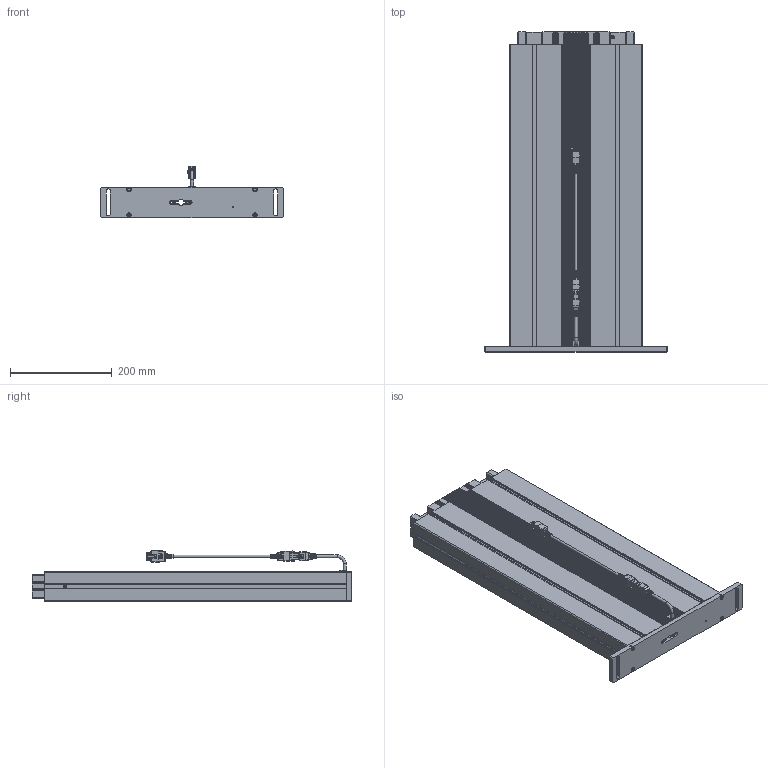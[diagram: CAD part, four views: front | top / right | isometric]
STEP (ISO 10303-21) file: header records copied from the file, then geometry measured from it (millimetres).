
FILE_DESCRIPTION(/* description */ ('Unknown'),/* implementation_level */ '2;1');
FILE_NAME(/* name */ '901.01104_01-Eingefahren',/* time_stamp */ '2022-06-27T11:06:17+02:00',/* author */ ('Unknown'),/* organization */ ('Unknown'),/* preprocessor_version */ 'ST-DEVELOPER v18.1',/* originating_system */ 'Solid Edge',/* authorisation */ 'Unknown');
FILE_SCHEMA (('AUTOMOTIVE_DESIGN {1 0 10303 214 3 1 1}'));
Products named in the file (12): 901.01104; 126.00137; 119.00302; 119.00401; 142.00166; 124.00201_oa_0; 142.00241; 110.00113_oa_1; 115.00200_oa_2; 124.00151; Kabel Motor Sx; 142.00341
Assembly tree (16 placements, depth 2):
  901.01104
    126.00137
    119.00302
    119.00401
    142.00166  x4
    124.00201_oa_0
    142.00241  x2
    110.00113_oa_1
    115.00200_oa_2
    124.00151
    Kabel Motor Sx
    142.00341  x2
Bounding box: 360 x 630 x 100.67 mm (x, y, z)
Volume: 3070122.7 mm3; surface area: 1875022.6 mm2
Topology: 13 solids, 13 shells, 3227 faces, 9137 edges, 6050 vertices
Faces by surface type: plane 1895, cylinder 1139, torus 103, bspline 72, cone 12, sphere 6
Full cylindrical faces by diameter (mm): 1.5 x6, 1.82 x6, 2.459 x1, 2.7 x6, 3.242 x4, 3.4 x1, 4 x4, 5 x5, 5.5 x4, 6 x3, 7 x4, 8.5 x4, 8.7 x4, 30 x2
Entity records: 127792 total; most frequent: CARTESIAN_POINT 22243, ORIENTED_EDGE 17786, DIRECTION 17228, EDGE_CURVE 8893, VERTEX_POINT 5931, LINE 5866, VECTOR 5866, AXIS2_PLACEMENT_3D 5681
